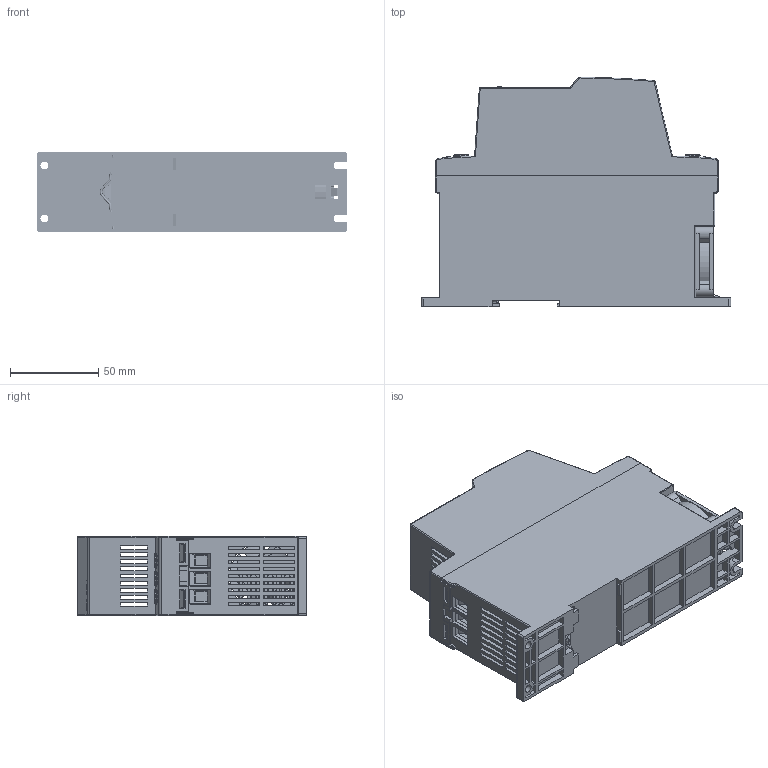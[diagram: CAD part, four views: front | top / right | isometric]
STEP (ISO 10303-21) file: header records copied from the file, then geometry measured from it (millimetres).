
FILE_DESCRIPTION(/* description */ ('STEP AP214'),/* implementation_level */ '2;1');
FILE_NAME(/* name */ 'O:\БЭМ\Personal\Абрамов\010-18-2 РУНН Крюково\MCD4 кит\3D\HPISS 4~30A\HPISS 4~30A адапт.stp',/* time_stamp */ '2024-02-01T07:26:50+03:00',/* author */ ('a.abramov'),/* organization */ (''),/* preprocessor_version */ 'ST-DEVELOPER v18.1',/* originating_system */ 'Autodesk Inventor 2022',/* authorisation */ '');
FILE_SCHEMA (('AUTOMOTIVE_DESIGN { 1 0 10303 214 3 1 1 }'));
Products named in the file (1): HPISS 4~30A
Bounding box: 175 x 129.96 x 45 mm (x, y, z)
Volume: 220858.3 mm3; surface area: 232102.7 mm2
Topology: 40 solids, 40 shells, 7166 faces, 19321 edges, 12608 vertices
Faces by surface type: plane 4060, cylinder 1757, bspline 1188, torus 83, cone 53, sphere 25
Full cylindrical faces by diameter (mm): 0.457 x6, 0.508 x9, 0.609 x1, 0.635 x1, 0.787 x16, 0.8 x9, 0.813 x10, 0.889 x3, 1 x8, 1.016 x3, 1.2 x10, 1.3 x10, 1.5 x12, 1.6 x2, 2 x14, 2.032 x2, 2.95 x2, 3.2 x4, 3.3 x4, 3.5 x4, 3.708 x3, 3.783 x6, 3.861 x3, 4 x12, 4.5 x2, 4.8 x2, 5 x6, 5.41 x3, 5.59 x3, 6.401 x3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
Entity records: 261714 total; most frequent: CARTESIAN_POINT 82047, ORIENTED_EDGE 38602, DIRECTION 32672, EDGE_CURVE 19301, LINE 12968, VECTOR 12968, VERTEX_POINT 12608, AXIS2_PLACEMENT_3D 9852
